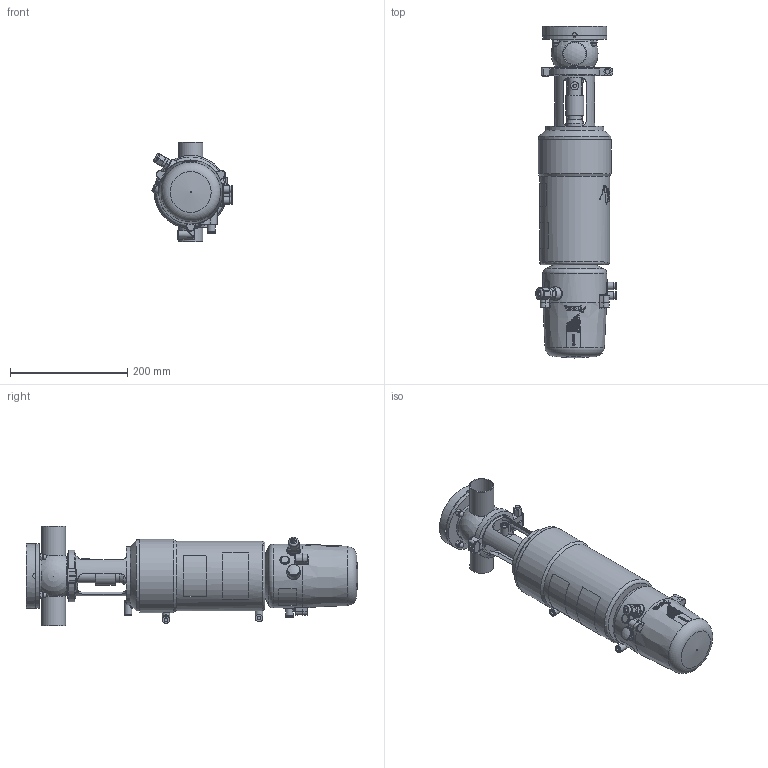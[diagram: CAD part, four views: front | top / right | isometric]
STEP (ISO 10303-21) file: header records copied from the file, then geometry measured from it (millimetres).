
FILE_DESCRIPTION (( 'STEP AP214' ), '1' );
FILE_NAME ('INNOVA T T W DIN 040 & C-TOP S_10.252.16.0008.STEP', '2024-08-20T12:20:37', ( '' ), ( '' ), 'SwSTEP 2.0', 'SolidWorks 2023', '' );
FILE_SCHEMA (( 'AUTOMOTIVE_DESIGN' ));
Length unit declared in the file: millimetre
Products named in the file (7): 10.250.15.0002_Type T T1; 10.240.15.0007_DIN 040; INNOVA T T W DIN 040 & C-TOP S_10.252.16.0008; 10.252.15.0001_DIN 040; 10.248.15.0003_DIN 040 _ OD 1½"; 10.426.15.0001_C-TOP S - 3 EV; 10.240.15.0001_DN 040
Assembly tree (6 placements, depth 2):
  INNOVA T T W DIN 040 & C-TOP S_10.252.16.0008
    10.240.15.0007_DIN 040
    10.248.15.0003_DIN 040 _ OD 1½"
    10.252.15.0001_DIN 040
    10.250.15.0002_Type T T1
    10.240.15.0001_DN 040
    10.426.15.0001_C-TOP S - 3 EV
Bounding box: 137.63 x 567.27 x 170 mm (x, y, z)
Volume: 4699484.5 mm3; surface area: 357762.8 mm2
Topology: 6 solids, 6 shells, 1202 faces, 2900 edges, 1929 vertices
Faces by surface type: plane 421, cylinder 378, cone 196, bspline 163, torus 33, sphere 11
Full cylindrical faces by diameter (mm): 0.371 x17, 0.512 x16, 0.658 x16, 0.795 x16, 0.94 x15, 1.098 x15, 1.241 x13, 1.382 x13, 1.523 x11, 1.669 x10, 2.201 x1, 4.2 x2, 5 x1, 5.5 x2, 6 x5, 6.15 x3, 8 x3, 9.5 x4, 10 x1, 10.5 x3, 11 x4, 12 x1, 12.5 x9, 13 x6, 13.5 x2, 14 x2, 17 x3, 20 x2, 22 x2, 23 x2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
Entity records: 60641 total; most frequent: CARTESIAN_POINT 28313, ORIENTED_EDGE 4896, DIRECTION 4027, EDGE_CURVE 2448, VERTEX_POINT 1741, EDGE_LOOP 1695, AXIS2_PLACEMENT_3D 1628, FACE_OUTER_BOUND 1434
